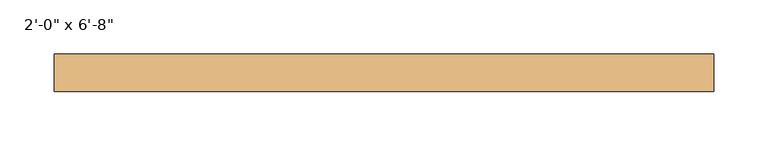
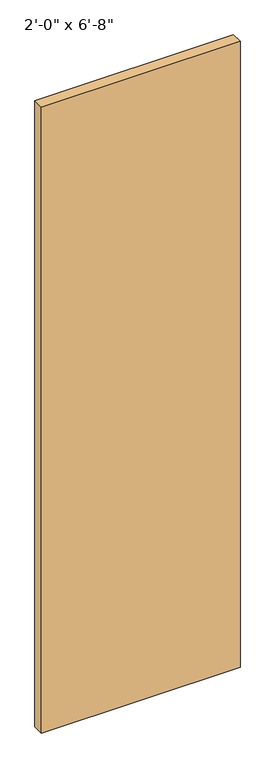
"""IFC4 building model written with IfcOpenShell, lengths in millimetres: door geometry."""

from ifc_helpers import new_model, si_unit, origin, origin_with_axes, place, context, project, spatial, polyline, outline, extrude, source, transform, mapped, element, save


def door_783c2eb5(model_context):
    return source(origin(), model_context, "Body", "SweptSolid", [
        extrude(outline(polyline([(304.8, 17.5), (304.8, -17.5), (-304.8, -17.5), (-304.8, 17.5), (304.8, 17.5)])), origin_with_axes(), (0.0, 0.0, 1.0), 2032.0),
    ])


if __name__ == "__main__":
    model = new_model("IFC4")
    model_context = context("Model", 3, world=origin())
    ifc_project = project(units=[si_unit("LENGTHUNIT", "METRE", prefix="MILLI")], contexts=[model_context])
    site = spatial("IfcSite", under=ifc_project)
    building = spatial("IfcBuilding", under=site)
    placement = place(None, origin())
    door_shape = door_783c2eb5(model_context)
    element("IfcDoor", 1, ObjectType="Planitar - Single Pocket Door : 2'-0\" x 6'-8\"", at=placement, inside=building, context=model_context, shape_type="MappedRepresentation", body=[
        mapped(door_shape, transform((0.0, 0.0, 0.0), x_axis=(1.0, 0.0, 0.0), y_axis=(0.0, 1.0, 0.0), z_axis=(0.0, 0.0, 1.0))),
    ])
    save(model, "model.ifc")
